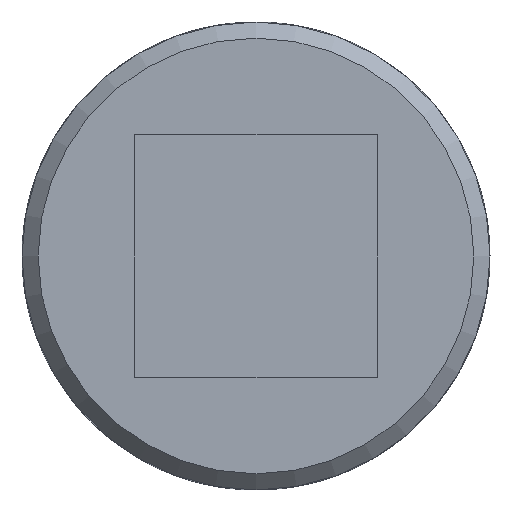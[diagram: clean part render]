
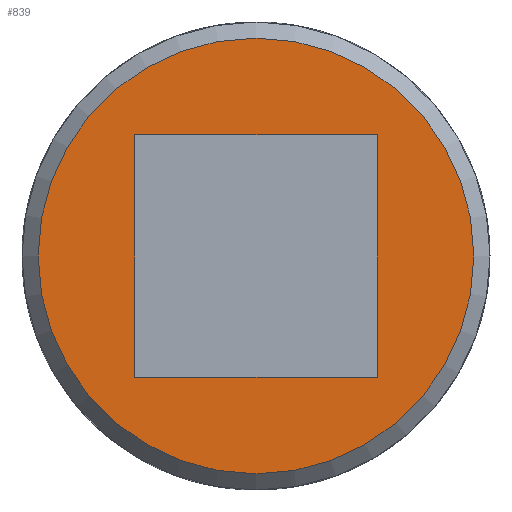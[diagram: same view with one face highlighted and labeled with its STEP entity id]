
A CAD part, front view. The second image highlights one B-rep face of the part: STEP entity #839.
In plain terms, the highlighted planar face has unit normal (0, -1, 0).
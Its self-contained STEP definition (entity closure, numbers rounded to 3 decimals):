
#94=LINE('',#1249,#134);
#98=LINE('',#1272,#138);
#104=LINE('',#1310,#144);
#107=LINE('',#1330,#147);
#134=VECTOR('',#1026,30.);
#138=VECTOR('',#1034,30.);
#144=VECTOR('',#1042,30.);
#147=VECTOR('',#1049,30.);
#174=PLANE('',#913);
#199=FACE_BOUND('',#299,.T.);
#234=FACE_OUTER_BOUND('',#298,.T.);
#298=EDGE_LOOP('',(#679));
#299=EDGE_LOOP('',(#680,#681,#682,#683));
#348=CIRCLE('',#911,27.);
#386=VERTEX_POINT('',#1246);
#387=VERTEX_POINT('',#1248);
#393=VERTEX_POINT('',#1271);
#402=VERTEX_POINT('',#1308);
#409=VERTEX_POINT('',#1375);
#475=EDGE_CURVE('',#387,#386,#94,.T.);
#482=EDGE_CURVE('',#393,#387,#98,.T.);
#492=EDGE_CURVE('',#386,#402,#104,.T.);
#498=EDGE_CURVE('',#402,#393,#107,.T.);
#509=EDGE_CURVE('',#409,#409,#348,.T.);
#679=ORIENTED_EDGE('',*,*,#509,.F.);
#680=ORIENTED_EDGE('',*,*,#475,.T.);
#681=ORIENTED_EDGE('',*,*,#492,.T.);
#682=ORIENTED_EDGE('',*,*,#498,.T.);
#683=ORIENTED_EDGE('',*,*,#482,.T.);
#839=ADVANCED_FACE('',(#234,#199),#174,.F.);
#911=AXIS2_PLACEMENT_3D('',#1376,#1078,#1079);
#913=AXIS2_PLACEMENT_3D('',#1584,#1086,#1087);
#1026=DIRECTION('',(0.,0.,-1.));
#1034=DIRECTION('',(1.,0.,0.));
#1042=DIRECTION('',(-1.,0.,0.));
#1049=DIRECTION('',(0.,0.,1.));
#1078=DIRECTION('center_axis',(0.,1.,0.));
#1079=DIRECTION('ref_axis',(1.,0.,0.));
#1086=DIRECTION('center_axis',(0.,1.,0.));
#1087=DIRECTION('ref_axis',(0.,0.,1.));
#1246=CARTESIAN_POINT('',(15.,-79.5,-15.));
#1248=CARTESIAN_POINT('',(15.,-79.5,15.));
#1249=CARTESIAN_POINT('',(15.,-79.5,7.5));
#1271=CARTESIAN_POINT('',(-15.,-79.5,15.));
#1272=CARTESIAN_POINT('',(-7.5,-79.5,15.));
#1308=CARTESIAN_POINT('',(-15.,-79.5,-15.));
#1310=CARTESIAN_POINT('',(7.5,-79.5,-15.));
#1330=CARTESIAN_POINT('',(-15.,-79.5,-7.5));
#1375=CARTESIAN_POINT('',(-27.,-79.5,0.));
#1376=CARTESIAN_POINT('Origin',(0.,-79.5,0.));
#1584=CARTESIAN_POINT('Origin',(0.,-79.5,0.));
